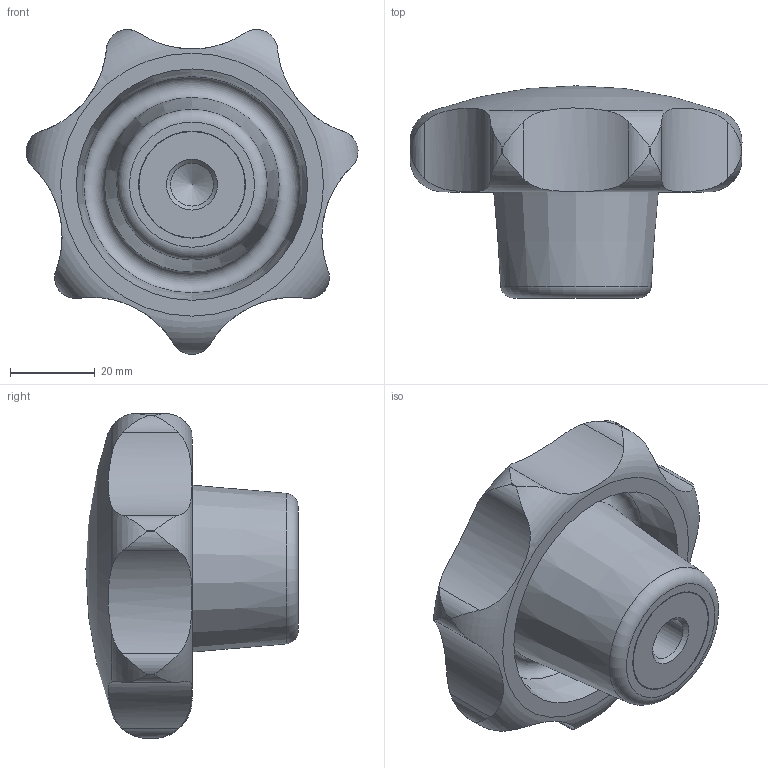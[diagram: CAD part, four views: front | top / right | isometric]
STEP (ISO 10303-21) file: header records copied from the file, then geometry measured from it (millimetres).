
FILE_DESCRIPTION( ( 'STEP AP203' ), '1' );
FILE_NAME( 'C:/Temp/Ganter_Step_05_03_2020/data/2_2/din_6336/din_6336_ku/din_6336_ku_k/Star knob DIN 6336-KU-80-M12-K-NI.stp', '2020-03-05T12:13:41', ( 'License CC BY-ND 4.0' ), ( 'CADENAS' ), ' ', 'PARTsolutions', ' ' );
FILE_SCHEMA( ( 'CONFIG_CONTROL_DESIGN' ) );
Length unit declared in the file: millimetre
Products named in the file (1): _Star knob DIN 6336-KU-80-M12-K-NI
Bounding box: 78.23 x 50 x 76.53 mm (x, y, z)
Volume: 98604.7 mm3; surface area: 18195.6 mm2
Topology: 1 solids, 1 shells, 50 faces, 133 edges, 87 vertices
Faces by surface type: cylinder 31, torus 10, plane 4, cone 4, sphere 1
Full cylindrical faces by diameter (mm): 10.106 x1, 25 x1, 25.2 x1
Entity records: 2332 total; most frequent: CARTESIAN_POINT 1186, ORIENTED_EDGE 236, DIRECTION 198, EDGE_CURVE 118, AXIS2_PLACEMENT_3D 85, VERTEX_POINT 85, EDGE_LOOP 63, FACE_OUTER_BOUND 56
